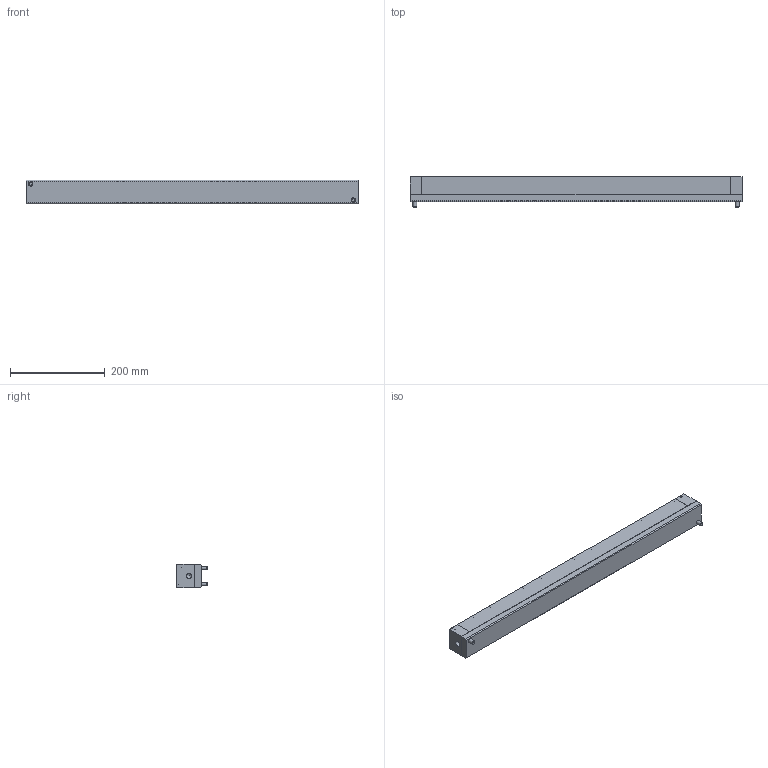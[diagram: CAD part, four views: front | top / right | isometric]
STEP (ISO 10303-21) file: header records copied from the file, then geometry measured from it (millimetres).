
FILE_DESCRIPTION( ( 'STEP AP214' ), '1' );
FILE_NAME( 'Z:/01-DesignData/標準品図面/★Web／カタログ用データ(型式別 3点Set)/072-ISR-C50D 系/ISR-C50D-700-A_0_.stp', '2022-05-10T00:44:04', ( 'License CC BY-ND 4.0' ), ( 'CADENAS' ), ' ', 'PARTsolutions', ' ' );
FILE_SCHEMA( ( 'AUTOMOTIVE_DESIGN { 1 0 10303 214 1 1 1 1 }' ) );
Length unit declared in the file: millimetre
Products named in the file (5): ISR-C50D-700-A(0); _ISR-C50D-700-A-Body; _ISR-C50D-700-A-Box; _ISR-C50D-700-A(0)-Ball; _ISR-C50D-700-A-screw
Assembly tree (17 placements, depth 2):
  ISR-C50D-700-A(0)
    _ISR-C50D-700-A-Body
    _ISR-C50D-700-A-Box
    _ISR-C50D-700-A(0)-Ball  x13
    _ISR-C50D-700-A-screw  x2
Bounding box: 700 x 64 x 49.5 mm (x, y, z)
Volume: 1707325.7 mm3; surface area: 388172.1 mm2
Topology: 17 solids, 17 shells, 778 faces, 1660 edges, 1015 vertices
Faces by surface type: plane 533, cylinder 129, torus 56, cone 47, sphere 13
Full cylindrical faces by diameter (mm): 8 x2, 8.5 x26, 9 x2, 9.5 x26, 13 x4, 14.5 x4, 25.4 x13, 38.5 x13, 39 x13, 42 x26
Entity records: 21296 total; most frequent: DIRECTION 2886, CARTESIAN_POINT 2665, ORIENTED_EDGE 2366, EDGE_CURVE 1183, AXIS2_PLACEMENT_3D 1047, EDGE_LOOP 884, VERTEX_POINT 826, LINE 792
